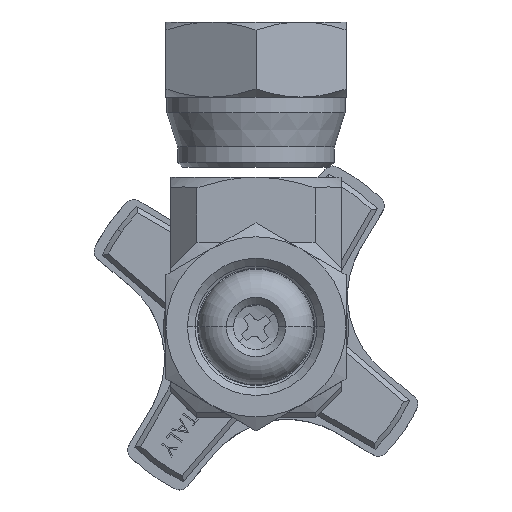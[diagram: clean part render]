
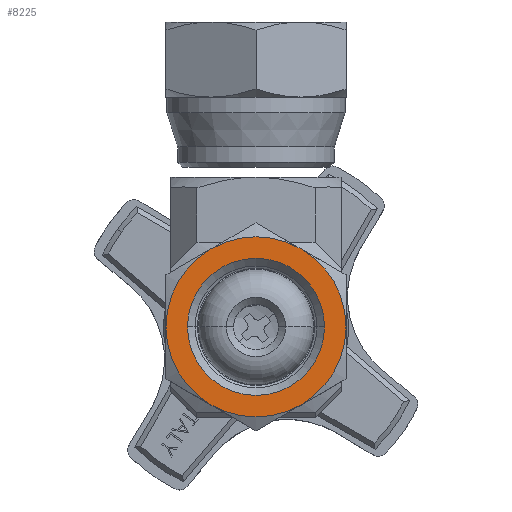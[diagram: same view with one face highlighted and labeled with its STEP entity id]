
A CAD part, top view. The second image highlights one B-rep face of the part: STEP entity #8225.
In plain terms, the highlighted planar face has unit normal (0, 0, 1).
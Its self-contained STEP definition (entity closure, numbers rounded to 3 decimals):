
#197 = CARTESIAN_POINT ( 'NONE',  ( 0., 0., 15.5 ) ) ;
#613 = DIRECTION ( 'NONE',  ( 0., 0., 1. ) ) ;
#676 = EDGE_CURVE ( 'NONE', #3310, #14141, #25327, .T. ) ;
#2273 = DIRECTION ( 'NONE',  ( 1., 0., 0. ) ) ;
#2421 = DIRECTION ( 'NONE',  ( 0., 0., 1. ) ) ;
#3026 = DIRECTION ( 'NONE',  ( 0., 0., 1. ) ) ;
#3310 = VERTEX_POINT ( 'NONE', #7439 ) ;
#3495 = CIRCLE ( 'NONE', #24922, 9. ) ;
#3761 = CARTESIAN_POINT ( 'NONE',  ( 0., -6.85, 15.5 ) ) ;
#5052 = CIRCLE ( 'NONE', #24257, 9. ) ;
#5645 = EDGE_CURVE ( 'NONE', #14141, #3310, #12707, .T. ) ;
#5871 = DIRECTION ( 'NONE',  ( 1., 0., 0. ) ) ;
#6608 = ORIENTED_EDGE ( 'NONE', *, *, #676, .F. ) ;
#6660 = DIRECTION ( 'NONE',  ( 0., 0., 1. ) ) ;
#6669 = VERTEX_POINT ( 'NONE', #24058 ) ;
#6671 = CARTESIAN_POINT ( 'NONE',  ( -9., 0., 15.5 ) ) ;
#6965 = CARTESIAN_POINT ( 'NONE',  ( -4.5, 7.794, 15.5 ) ) ;
#7406 = ORIENTED_EDGE ( 'NONE', *, *, #5645, .F. ) ;
#7439 = CARTESIAN_POINT ( 'NONE',  ( 6.85, 0., 15.5 ) ) ;
#8225 = ADVANCED_FACE ( 'NONE', ( #10075, #15622 ), #18137, .T. ) ;
#8231 = DIRECTION ( 'NONE',  ( 0., 0., 1. ) ) ;
#8630 = CARTESIAN_POINT ( 'NONE',  ( 9., 0., 15.5 ) ) ;
#8801 = VERTEX_POINT ( 'NONE', #6671 ) ;
#9196 = EDGE_LOOP ( 'NONE', ( #23605, #23710, #20867, #10265, #9922, #22889 ) ) ;
#9922 = ORIENTED_EDGE ( 'NONE', *, *, #24267, .T. ) ;
#10075 = FACE_OUTER_BOUND ( 'NONE', #9196, .T. ) ;
#10265 = ORIENTED_EDGE ( 'NONE', *, *, #21273, .T. ) ;
#10436 = DIRECTION ( 'NONE',  ( 0., 0., 1. ) ) ;
#11832 = CIRCLE ( 'NONE', #23229, 9. ) ;
#12245 = DIRECTION ( 'NONE',  ( 0., 0., 1. ) ) ;
#12707 = CIRCLE ( 'NONE', #23321, 6.85 ) ;
#13031 = CARTESIAN_POINT ( 'NONE',  ( 0., 0., 15.5 ) ) ;
#13364 = VERTEX_POINT ( 'NONE', #6965 ) ;
#13468 = CIRCLE ( 'NONE', #18230, 9. ) ;
#13614 = CIRCLE ( 'NONE', #13964, 9. ) ;
#13964 = AXIS2_PLACEMENT_3D ( 'NONE', #13031, #613, #15114 ) ;
#14141 = VERTEX_POINT ( 'NONE', #24495 ) ;
#14149 = AXIS2_PLACEMENT_3D ( 'NONE', #20548, #8231, #22619 ) ;
#14686 = DIRECTION ( 'NONE',  ( 0., 0., 1. ) ) ;
#14820 = CARTESIAN_POINT ( 'NONE',  ( 0., 0., 15.5 ) ) ;
#15114 = DIRECTION ( 'NONE',  ( 1., 0., 0. ) ) ;
#15447 = CARTESIAN_POINT ( 'NONE',  ( 0., 0., 15.5 ) ) ;
#15510 = VERTEX_POINT ( 'NONE', #21733 ) ;
#15622 = FACE_BOUND ( 'NONE', #19514, .T. ) ;
#16922 = DIRECTION ( 'NONE',  ( 1., 0., 0. ) ) ;
#17393 = CIRCLE ( 'NONE', #25207, 9. ) ;
#17494 = DIRECTION ( 'NONE',  ( 1., 0., 0. ) ) ;
#17506 = EDGE_CURVE ( 'NONE', #18581, #19352, #13614, .T. ) ;
#18137 = PLANE ( 'NONE',  #21049 ) ;
#18230 = AXIS2_PLACEMENT_3D ( 'NONE', #15447, #3026, #17494 ) ;
#18239 = EDGE_CURVE ( 'NONE', #13364, #8801, #17393, .T. ) ;
#18241 = DIRECTION ( 'NONE',  ( 0., 0., 1. ) ) ;
#18581 = VERTEX_POINT ( 'NONE', #24241 ) ;
#19009 = CARTESIAN_POINT ( 'NONE',  ( 0., 0., 15.5 ) ) ;
#19352 = VERTEX_POINT ( 'NONE', #8630 ) ;
#19514 = EDGE_LOOP ( 'NONE', ( #6608, #7406 ) ) ;
#20548 = CARTESIAN_POINT ( 'NONE',  ( 0., 0., 15.5 ) ) ;
#20867 = ORIENTED_EDGE ( 'NONE', *, *, #18239, .T. ) ;
#21049 = AXIS2_PLACEMENT_3D ( 'NONE', #3761, #18241, #5871 ) ;
#21085 = DIRECTION ( 'NONE',  ( 1., 0., 0. ) ) ;
#21273 = EDGE_CURVE ( 'NONE', #8801, #15510, #5052, .T. ) ;
#21733 = CARTESIAN_POINT ( 'NONE',  ( -4.5, -7.794, 15.5 ) ) ;
#22619 = DIRECTION ( 'NONE',  ( 1., 0., 0. ) ) ;
#22767 = CARTESIAN_POINT ( 'NONE',  ( 0., 0., 15.5 ) ) ;
#22889 = ORIENTED_EDGE ( 'NONE', *, *, #17506, .T. ) ;
#23229 = AXIS2_PLACEMENT_3D ( 'NONE', #22767, #10436, #24844 ) ;
#23241 = EDGE_CURVE ( 'NONE', #19352, #6669, #3495, .T. ) ;
#23321 = AXIS2_PLACEMENT_3D ( 'NONE', #19009, #6660, #21085 ) ;
#23605 = ORIENTED_EDGE ( 'NONE', *, *, #23241, .T. ) ;
#23710 = ORIENTED_EDGE ( 'NONE', *, *, #23932, .T. ) ;
#23932 = EDGE_CURVE ( 'NONE', #6669, #13364, #13468, .T. ) ;
#24058 = CARTESIAN_POINT ( 'NONE',  ( 4.5, 7.794, 15.5 ) ) ;
#24241 = CARTESIAN_POINT ( 'NONE',  ( 4.5, -7.794, 15.5 ) ) ;
#24257 = AXIS2_PLACEMENT_3D ( 'NONE', #24588, #12245, #26704 ) ;
#24267 = EDGE_CURVE ( 'NONE', #15510, #18581, #11832, .T. ) ;
#24495 = CARTESIAN_POINT ( 'NONE',  ( -6.85, 0., 15.5 ) ) ;
#24588 = CARTESIAN_POINT ( 'NONE',  ( 0., 0., 15.5 ) ) ;
#24844 = DIRECTION ( 'NONE',  ( 1., 0., 0. ) ) ;
#24922 = AXIS2_PLACEMENT_3D ( 'NONE', #14820, #2421, #16922 ) ;
#25207 = AXIS2_PLACEMENT_3D ( 'NONE', #197, #14686, #2273 ) ;
#25327 = CIRCLE ( 'NONE', #14149, 6.85 ) ;
#26704 = DIRECTION ( 'NONE',  ( 1., 0., 0. ) ) ;
